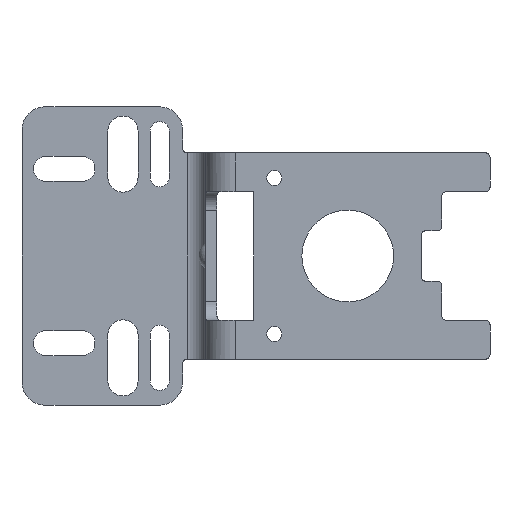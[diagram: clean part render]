
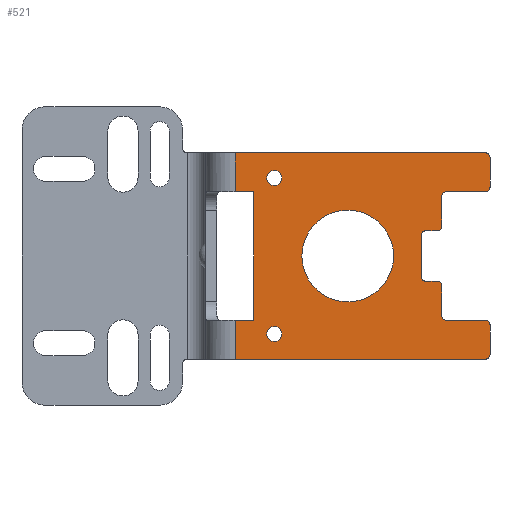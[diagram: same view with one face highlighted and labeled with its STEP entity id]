
A CAD part, left-side view. The second image highlights one B-rep face of the part: STEP entity #521.
In plain terms, the highlighted planar face has unit normal (-1, 0, 0).
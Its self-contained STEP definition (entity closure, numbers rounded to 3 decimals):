
#247=CARTESIAN_POINT('',(0.,-62.,-21.5));
#248=VERTEX_POINT('',#247);
#255=CARTESIAN_POINT('',(0.,-61.,-22.5));
#256=VERTEX_POINT('',#255);
#257=CARTESIAN_POINT('',(0.0,-61.,-21.5));
#258=DIRECTION('',(1.0,0.0,0.0));
#259=DIRECTION('',(0.0,-0.707,-0.707));
#260=AXIS2_PLACEMENT_3D('',#257,#258,#259);
#261=CIRCLE('',#260,1.0);
#262=EDGE_CURVE('',#248,#256,#261,.T.);
#273=CARTESIAN_POINT('',(0.,-62.,0.0));
#274=DIRECTION('',(-1.0,0.0,0.0));
#275=DIRECTION('',(0.0,0.0,1.0));
#276=AXIS2_PLACEMENT_3D('',#273,#274,#275);
#277=PLANE('',#276);
#278=ORIENTED_EDGE('',*,*,#262,.F.);
#279=CARTESIAN_POINT('',(0.,-62.,-15.));
#280=VERTEX_POINT('',#279);
#281=CARTESIAN_POINT('',(0.,-62.,-21.5));
#282=DIRECTION('',(0.0,0.0,1.0));
#283=VECTOR('',#282,6.5);
#284=LINE('',#281,#283);
#285=EDGE_CURVE('',#248,#280,#284,.T.);
#286=ORIENTED_EDGE('',*,*,#285,.T.);
#287=CARTESIAN_POINT('',(0.,-61.,-14.));
#288=VERTEX_POINT('',#287);
#289=CARTESIAN_POINT('',(0.0,-61.,-15.));
#290=DIRECTION('',(1.0,0.0,0.0));
#291=DIRECTION('',(0.0,-0.707,0.707));
#292=AXIS2_PLACEMENT_3D('',#289,#290,#291);
#293=CIRCLE('',#292,1.0);
#294=EDGE_CURVE('',#288,#280,#293,.T.);
#295=ORIENTED_EDGE('',*,*,#294,.F.);
#296=CARTESIAN_POINT('',(0.,-52.5,-14.));
#297=VERTEX_POINT('',#296);
#298=CARTESIAN_POINT('',(0.,-61.,-14.));
#299=DIRECTION('',(0.0,1.0,0.0));
#300=VECTOR('',#299,8.5);
#301=LINE('',#298,#300);
#302=EDGE_CURVE('',#288,#297,#301,.T.);
#303=ORIENTED_EDGE('',*,*,#302,.T.);
#304=CARTESIAN_POINT('',(0.,-51.5,-13.));
#305=VERTEX_POINT('',#304);
#306=CARTESIAN_POINT('',(0.,-52.5,-13.));
#307=DIRECTION('',(-1.0,0.0,0.0));
#308=DIRECTION('',(0.0,0.707,-0.707));
#309=AXIS2_PLACEMENT_3D('',#306,#307,#308);
#310=CIRCLE('',#309,1.0);
#311=EDGE_CURVE('',#305,#297,#310,.T.);
#312=ORIENTED_EDGE('',*,*,#311,.F.);
#313=CARTESIAN_POINT('',(0.,-51.5,-6.5));
#314=VERTEX_POINT('',#313);
#315=CARTESIAN_POINT('',(0.,-51.5,-13.));
#316=DIRECTION('',(0.0,0.0,1.0));
#317=VECTOR('',#316,6.5);
#318=LINE('',#315,#317);
#319=EDGE_CURVE('',#305,#314,#318,.T.);
#320=ORIENTED_EDGE('',*,*,#319,.T.);
#321=CARTESIAN_POINT('',(0.,-50.5,-5.5));
#322=VERTEX_POINT('',#321);
#323=CARTESIAN_POINT('',(0.,-50.5,-6.5));
#324=DIRECTION('',(1.0,0.0,0.0));
#325=DIRECTION('',(0.0,-0.707,0.707));
#326=AXIS2_PLACEMENT_3D('',#323,#324,#325);
#327=CIRCLE('',#326,1.0);
#328=EDGE_CURVE('',#322,#314,#327,.T.);
#329=ORIENTED_EDGE('',*,*,#328,.F.);
#330=CARTESIAN_POINT('',(0.,-48.,-5.5));
#331=VERTEX_POINT('',#330);
#332=CARTESIAN_POINT('',(0.,-50.5,-5.5));
#333=DIRECTION('',(0.0,1.0,0.0));
#334=VECTOR('',#333,2.5);
#335=LINE('',#332,#334);
#336=EDGE_CURVE('',#322,#331,#335,.T.);
#337=ORIENTED_EDGE('',*,*,#336,.T.);
#338=CARTESIAN_POINT('',(0.,-47.,-4.5));
#339=VERTEX_POINT('',#338);
#340=CARTESIAN_POINT('',(0.,-48.,-4.5));
#341=DIRECTION('',(-1.0,0.0,0.0));
#342=DIRECTION('',(0.0,0.707,-0.707));
#343=AXIS2_PLACEMENT_3D('',#340,#341,#342);
#344=CIRCLE('',#343,1.0);
#345=EDGE_CURVE('',#339,#331,#344,.T.);
#346=ORIENTED_EDGE('',*,*,#345,.F.);
#347=CARTESIAN_POINT('',(0.,-47.,4.5));
#348=VERTEX_POINT('',#347);
#349=CARTESIAN_POINT('',(0.,-47.,-4.5));
#350=DIRECTION('',(0.0,0.0,1.0));
#351=VECTOR('',#350,9.0);
#352=LINE('',#349,#351);
#353=EDGE_CURVE('',#339,#348,#352,.T.);
#354=ORIENTED_EDGE('',*,*,#353,.T.);
#355=CARTESIAN_POINT('',(0.,-48.,5.5));
#356=VERTEX_POINT('',#355);
#357=CARTESIAN_POINT('',(0.,-48.,4.5));
#358=DIRECTION('',(-1.0,0.0,0.0));
#359=DIRECTION('',(0.0,0.707,0.707));
#360=AXIS2_PLACEMENT_3D('',#357,#358,#359);
#361=CIRCLE('',#360,1.0);
#362=EDGE_CURVE('',#356,#348,#361,.T.);
#363=ORIENTED_EDGE('',*,*,#362,.F.);
#364=CARTESIAN_POINT('',(0.,-50.5,5.5));
#365=VERTEX_POINT('',#364);
#366=CARTESIAN_POINT('',(0.,-48.,5.5));
#367=DIRECTION('',(0.0,-1.0,0.0));
#368=VECTOR('',#367,2.5);
#369=LINE('',#366,#368);
#370=EDGE_CURVE('',#356,#365,#369,.T.);
#371=ORIENTED_EDGE('',*,*,#370,.T.);
#372=CARTESIAN_POINT('',(0.,-51.5,6.5));
#373=VERTEX_POINT('',#372);
#374=CARTESIAN_POINT('',(0.,-50.5,6.5));
#375=DIRECTION('',(1.0,0.0,0.0));
#376=DIRECTION('',(0.0,-0.707,-0.707));
#377=AXIS2_PLACEMENT_3D('',#374,#375,#376);
#378=CIRCLE('',#377,1.0);
#379=EDGE_CURVE('',#373,#365,#378,.T.);
#380=ORIENTED_EDGE('',*,*,#379,.F.);
#381=CARTESIAN_POINT('',(0.,-51.5,13.));
#382=VERTEX_POINT('',#381);
#383=CARTESIAN_POINT('',(0.,-51.5,6.5));
#384=DIRECTION('',(0.0,0.0,1.0));
#385=VECTOR('',#384,6.5);
#386=LINE('',#383,#385);
#387=EDGE_CURVE('',#373,#382,#386,.T.);
#388=ORIENTED_EDGE('',*,*,#387,.T.);
#389=CARTESIAN_POINT('',(0.,-52.5,14.));
#390=VERTEX_POINT('',#389);
#391=CARTESIAN_POINT('',(0.,-52.5,13.));
#392=DIRECTION('',(-1.0,0.0,0.0));
#393=DIRECTION('',(0.0,0.707,0.707));
#394=AXIS2_PLACEMENT_3D('',#391,#392,#393);
#395=CIRCLE('',#394,1.0);
#396=EDGE_CURVE('',#390,#382,#395,.T.);
#397=ORIENTED_EDGE('',*,*,#396,.F.);
#398=CARTESIAN_POINT('',(0.,-61.,14.));
#399=VERTEX_POINT('',#398);
#400=CARTESIAN_POINT('',(0.,-52.5,14.));
#401=DIRECTION('',(0.0,-1.0,0.0));
#402=VECTOR('',#401,8.5);
#403=LINE('',#400,#402);
#404=EDGE_CURVE('',#390,#399,#403,.T.);
#405=ORIENTED_EDGE('',*,*,#404,.T.);
#406=CARTESIAN_POINT('',(0.,-62.,15.));
#407=VERTEX_POINT('',#406);
#408=CARTESIAN_POINT('',(0.0,-61.,15.));
#409=DIRECTION('',(1.0,0.0,0.0));
#410=DIRECTION('',(0.0,-0.707,-0.707));
#411=AXIS2_PLACEMENT_3D('',#408,#409,#410);
#412=CIRCLE('',#411,1.0);
#413=EDGE_CURVE('',#407,#399,#412,.T.);
#414=ORIENTED_EDGE('',*,*,#413,.F.);
#415=CARTESIAN_POINT('',(0.,-62.,21.5));
#416=VERTEX_POINT('',#415);
#417=CARTESIAN_POINT('',(0.,-62.,15.));
#418=DIRECTION('',(0.0,0.0,1.0));
#419=VECTOR('',#418,6.5);
#420=LINE('',#417,#419);
#421=EDGE_CURVE('',#407,#416,#420,.T.);
#422=ORIENTED_EDGE('',*,*,#421,.T.);
#423=CARTESIAN_POINT('',(0.,-61.,22.5));
#424=VERTEX_POINT('',#423);
#425=CARTESIAN_POINT('',(0.0,-61.,21.5));
#426=DIRECTION('',(1.0,0.0,0.0));
#427=DIRECTION('',(0.0,-0.707,0.707));
#428=AXIS2_PLACEMENT_3D('',#425,#426,#427);
#429=CIRCLE('',#428,1.0);
#430=EDGE_CURVE('',#424,#416,#429,.T.);
#431=ORIENTED_EDGE('',*,*,#430,.F.);
#432=CARTESIAN_POINT('',(0.,-6.5,22.5));
#433=VERTEX_POINT('',#432);
#434=CARTESIAN_POINT('',(0.,-61.,22.5));
#435=DIRECTION('',(0.0,1.0,0.0));
#436=VECTOR('',#435,54.5);
#437=LINE('',#434,#436);
#438=EDGE_CURVE('',#424,#433,#437,.T.);
#439=ORIENTED_EDGE('',*,*,#438,.T.);
#440=CARTESIAN_POINT('',(0.0,-6.5,14.));
#441=VERTEX_POINT('',#440);
#442=CARTESIAN_POINT('',(0.0,-6.5,14.));
#443=DIRECTION('',(0.0,0.0,1.0));
#444=VECTOR('',#443,8.5);
#445=LINE('',#442,#444);
#446=EDGE_CURVE('',#441,#433,#445,.T.);
#447=ORIENTED_EDGE('',*,*,#446,.F.);
#448=CARTESIAN_POINT('',(0.,-10.5,14.));
#449=VERTEX_POINT('',#448);
#450=CARTESIAN_POINT('',(0.,-6.5,14.));
#451=DIRECTION('',(0.0,-1.0,0.0));
#452=VECTOR('',#451,4.);
#453=LINE('',#450,#452);
#454=EDGE_CURVE('',#441,#449,#453,.T.);
#455=ORIENTED_EDGE('',*,*,#454,.T.);
#456=CARTESIAN_POINT('',(0.,-10.5,-14.));
#457=VERTEX_POINT('',#456);
#458=CARTESIAN_POINT('',(0.,-10.5,14.));
#459=DIRECTION('',(0.0,0.0,-1.0));
#460=VECTOR('',#459,28.);
#461=LINE('',#458,#460);
#462=EDGE_CURVE('',#449,#457,#461,.T.);
#463=ORIENTED_EDGE('',*,*,#462,.T.);
#464=CARTESIAN_POINT('',(0.0,-6.5,-14.));
#465=VERTEX_POINT('',#464);
#466=CARTESIAN_POINT('',(0.,-10.5,-14.));
#467=DIRECTION('',(0.0,1.0,0.0));
#468=VECTOR('',#467,4.);
#469=LINE('',#466,#468);
#470=EDGE_CURVE('',#457,#465,#469,.T.);
#471=ORIENTED_EDGE('',*,*,#470,.T.);
#472=CARTESIAN_POINT('',(0.,-6.5,-22.5));
#473=VERTEX_POINT('',#472);
#474=CARTESIAN_POINT('',(0.0,-6.5,-22.5));
#475=DIRECTION('',(0.0,0.0,1.0));
#476=VECTOR('',#475,8.5);
#477=LINE('',#474,#476);
#478=EDGE_CURVE('',#473,#465,#477,.T.);
#479=ORIENTED_EDGE('',*,*,#478,.F.);
#480=CARTESIAN_POINT('',(0.,-6.5,-22.5));
#481=DIRECTION('',(0.0,-1.0,0.0));
#482=VECTOR('',#481,54.5);
#483=LINE('',#480,#482);
#484=EDGE_CURVE('',#473,#256,#483,.T.);
#485=ORIENTED_EDGE('',*,*,#484,.T.);
#486=EDGE_LOOP('',(#278,#286,#295,#303,#312,#320,#329,#337,#346,#354,#363,#371,#380,#388,#397,#405,#414,#422,#431,#439,#447,#455,#463,#471,#479,#485));
#487=FACE_OUTER_BOUND('',#486,.T.);
#488=CARTESIAN_POINT('',(0.,-15.,-15.35));
#489=VERTEX_POINT('',#488);
#490=CARTESIAN_POINT('',(0.,-15.,-17.0));
#491=DIRECTION('',(1.0,0.0,0.0));
#492=DIRECTION('',(0.0,0.0,-1.0));
#493=AXIS2_PLACEMENT_3D('',#490,#491,#492);
#494=CIRCLE('',#493,1.65);
#495=EDGE_CURVE('',#489,#489,#494,.T.);
#496=ORIENTED_EDGE('',*,*,#495,.T.);
#497=EDGE_LOOP('',(#496));
#498=FACE_BOUND('',#497,.T.);
#499=CARTESIAN_POINT('',(0.,-15.,18.65));
#500=VERTEX_POINT('',#499);
#501=CARTESIAN_POINT('',(0.,-15.,17.0));
#502=DIRECTION('',(1.0,0.0,0.0));
#503=DIRECTION('',(0.0,0.0,-1.0));
#504=AXIS2_PLACEMENT_3D('',#501,#502,#503);
#505=CIRCLE('',#504,1.65);
#506=EDGE_CURVE('',#500,#500,#505,.T.);
#507=ORIENTED_EDGE('',*,*,#506,.T.);
#508=EDGE_LOOP('',(#507));
#509=FACE_BOUND('',#508,.T.);
#510=CARTESIAN_POINT('',(0.,-31.,10.0));
#511=VERTEX_POINT('',#510);
#512=CARTESIAN_POINT('',(0.,-31.,0.0));
#513=DIRECTION('',(1.0,0.0,0.0));
#514=DIRECTION('',(0.0,0.0,-1.0));
#515=AXIS2_PLACEMENT_3D('',#512,#513,#514);
#516=CIRCLE('',#515,10.0);
#517=EDGE_CURVE('',#511,#511,#516,.T.);
#518=ORIENTED_EDGE('',*,*,#517,.T.);
#519=EDGE_LOOP('',(#518));
#520=FACE_BOUND('',#519,.T.);
#521=ADVANCED_FACE('',(#487,#498,#509,#520),#277,.T.);
